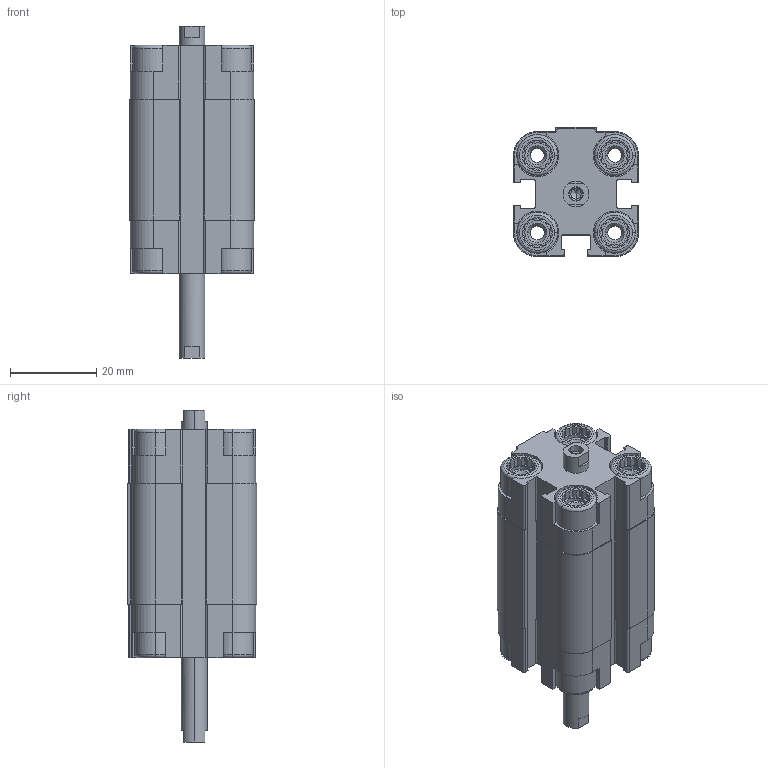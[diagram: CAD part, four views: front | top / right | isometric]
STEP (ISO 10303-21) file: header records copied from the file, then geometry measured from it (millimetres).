
FILE_DESCRIPTION (( 'STEP AP203' ), '1' );
FILE_NAME ('CDVU12-15F-P.STEP', '2020-07-24T18:01:05', ( '' ), ( '' ), 'SwSTEP 2.0', 'SolidWorks 2019', '' );
FILE_SCHEMA (( 'CONFIG_CONTROL_DESIGN' ));
Length unit declared in the file: millimetre
Products named in the file (1): CDVU12-15F-P
Bounding box: 29 x 30 x 77 mm (x, y, z)
Volume: 32949.9 mm3; surface area: 17370.1 mm2
Topology: 2 solids, 2 shells, 566 faces, 1508 edges, 980 vertices
Faces by surface type: plane 338, cylinder 164, cone 48, torus 16
Entity records: 17779 total; most frequent: CARTESIAN_POINT 3623, ORIENTED_EDGE 3000, DIRECTION 2850, EDGE_CURVE 1500, VERTEX_POINT 980, AXIS2_PLACEMENT_3D 975, LINE 900, VECTOR 900
